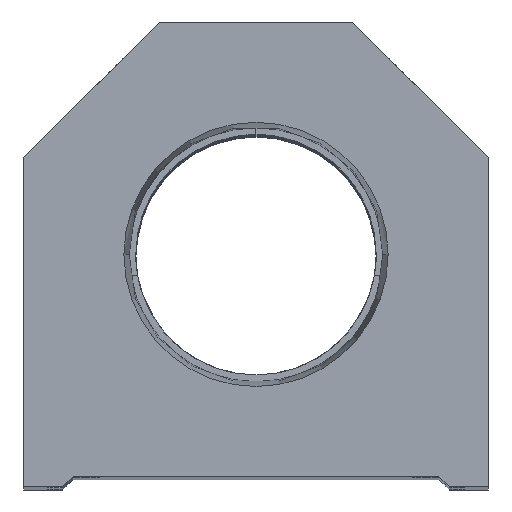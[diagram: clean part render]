
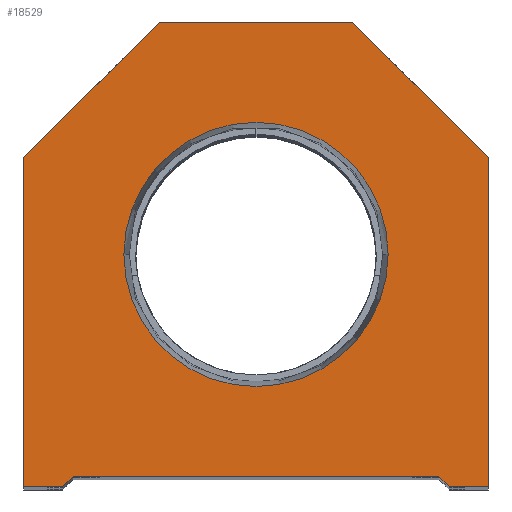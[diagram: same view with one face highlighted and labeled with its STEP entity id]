
A CAD part, top view. The second image highlights one B-rep face of the part: STEP entity #18529.
In plain terms, the highlighted planar face has unit normal (0, 0, 1).
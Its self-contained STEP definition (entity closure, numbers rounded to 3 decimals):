
#410 = DIRECTION ( 'NONE',  ( 0., -1., 0. ) ) ;
#971 = AXIS2_PLACEMENT_3D ( 'NONE', #16950, #4462, #13970 ) ;
#1244 = ORIENTED_EDGE ( 'NONE', *, *, #18315, .F. ) ;
#1262 = VECTOR ( 'NONE', #5521, 1000. ) ;
#1351 = CARTESIAN_POINT ( 'NONE',  ( -18.5, 0., 0. ) ) ;
#1637 = CARTESIAN_POINT ( 'NONE',  ( 22.25, 31.5, 0. ) ) ;
#2040 = ORIENTED_EDGE ( 'NONE', *, *, #16344, .T. ) ;
#2110 = LINE ( 'NONE', #8412, #18957 ) ;
#2195 = VERTEX_POINT ( 'NONE', #6141 ) ;
#2294 = AXIS2_PLACEMENT_3D ( 'NONE', #9554, #2569, #14305 ) ;
#2569 = DIRECTION ( 'NONE',  ( 0., 0., 1. ) ) ;
#2581 = EDGE_CURVE ( 'NONE', #14230, #14682, #9377, .T. ) ;
#2829 = DIRECTION ( 'NONE',  ( 1., 0., 0. ) ) ;
#3001 = VERTEX_POINT ( 'NONE', #5606 ) ;
#3291 = ORIENTED_EDGE ( 'NONE', *, *, #17288, .T. ) ;
#3458 = CARTESIAN_POINT ( 'NONE',  ( -17.5, 1., 0. ) ) ;
#3513 = LINE ( 'NONE', #6594, #9124 ) ;
#3969 = DIRECTION ( 'NONE',  ( 1., 0., 0. ) ) ;
#4270 = FACE_BOUND ( 'NONE', #15667, .T. ) ;
#4311 = VERTEX_POINT ( 'NONE', #12647 ) ;
#4462 = DIRECTION ( 'NONE',  ( 0., 0., 1. ) ) ;
#4679 = CARTESIAN_POINT ( 'NONE',  ( -17.5, 0., 0. ) ) ;
#4861 = ORIENTED_EDGE ( 'NONE', *, *, #11887, .T. ) ;
#5140 = VERTEX_POINT ( 'NONE', #12552 ) ;
#5507 = ORIENTED_EDGE ( 'NONE', *, *, #10117, .T. ) ;
#5521 = DIRECTION ( 'NONE',  ( -1., 0., 0. ) ) ;
#5606 = CARTESIAN_POINT ( 'NONE',  ( -12.647, 22.25, 0. ) ) ;
#5761 = VECTOR ( 'NONE', #17679, 1000. ) ;
#5803 = PLANE ( 'NONE',  #6573 ) ;
#5848 = VERTEX_POINT ( 'NONE', #3458 ) ;
#6045 = ORIENTED_EDGE ( 'NONE', *, *, #9874, .T. ) ;
#6113 = LINE ( 'NONE', #4679, #6425 ) ;
#6132 = DIRECTION ( 'NONE',  ( 0.707, -0.707, 0. ) ) ;
#6141 = CARTESIAN_POINT ( 'NONE',  ( 17.5, 1., 0. ) ) ;
#6425 = VECTOR ( 'NONE', #17490, 1000. ) ;
#6526 = CARTESIAN_POINT ( 'NONE',  ( 22.25, 31.5, 0. ) ) ;
#6573 = AXIS2_PLACEMENT_3D ( 'NONE', #18119, #12113, #3969 ) ;
#6594 = CARTESIAN_POINT ( 'NONE',  ( -22.25, 0., 0. ) ) ;
#6706 = CARTESIAN_POINT ( 'NONE',  ( 12.647, 22.25, 0. ) ) ;
#7066 = LINE ( 'NONE', #13390, #1262 ) ;
#7238 = CIRCLE ( 'NONE', #2294, 12.647 ) ;
#7262 = FACE_OUTER_BOUND ( 'NONE', #8262, .T. ) ;
#8262 = EDGE_LOOP ( 'NONE', ( #5507, #10399, #6045, #17354, #12978, #4861, #2040, #3291, #11417, #8779 ) ) ;
#8412 = CARTESIAN_POINT ( 'NONE',  ( -17.5, 1., 0. ) ) ;
#8651 = CARTESIAN_POINT ( 'NONE',  ( 22.25, 0., 0. ) ) ;
#8779 = ORIENTED_EDGE ( 'NONE', *, *, #14529, .T. ) ;
#8861 = DIRECTION ( 'NONE',  ( 0., 1., 0. ) ) ;
#9124 = VECTOR ( 'NONE', #410, 1000. ) ;
#9377 = LINE ( 'NONE', #15699, #13059 ) ;
#9554 = CARTESIAN_POINT ( 'NONE',  ( 0., 22.25, 0. ) ) ;
#9874 = EDGE_CURVE ( 'NONE', #5848, #2195, #2110, .T. ) ;
#10117 = EDGE_CURVE ( 'NONE', #14758, #19775, #6113, .T. ) ;
#10399 = ORIENTED_EDGE ( 'NONE', *, *, #16266, .T. ) ;
#10412 = CARTESIAN_POINT ( 'NONE',  ( -9.25, 9.25, 0. ) ) ;
#10566 = CARTESIAN_POINT ( 'NONE',  ( -9.25, 44.5, 0. ) ) ;
#11334 = LINE ( 'NONE', #1637, #18716 ) ;
#11417 = ORIENTED_EDGE ( 'NONE', *, *, #12607, .T. ) ;
#11525 = VERTEX_POINT ( 'NONE', #6706 ) ;
#11691 = VECTOR ( 'NONE', #8861, 1000. ) ;
#11752 = CARTESIAN_POINT ( 'NONE',  ( 22.25, 0., 0. ) ) ;
#11887 = EDGE_CURVE ( 'NONE', #14682, #14047, #15267, .T. ) ;
#12059 = LINE ( 'NONE', #13720, #12530 ) ;
#12113 = DIRECTION ( 'NONE',  ( 0., 0., 1. ) ) ;
#12530 = VECTOR ( 'NONE', #6132, 1000. ) ;
#12552 = CARTESIAN_POINT ( 'NONE',  ( 9.25, 44.5, 0. ) ) ;
#12607 = EDGE_CURVE ( 'NONE', #16009, #4311, #18814, .T. ) ;
#12647 = CARTESIAN_POINT ( 'NONE',  ( -22.25, 31.5, 0. ) ) ;
#12900 = DIRECTION ( 'NONE',  ( -0.707, 0.707, 0. ) ) ;
#12978 = ORIENTED_EDGE ( 'NONE', *, *, #2581, .T. ) ;
#13059 = VECTOR ( 'NONE', #14145, 1000. ) ;
#13390 = CARTESIAN_POINT ( 'NONE',  ( 9.25, 44.5, 0. ) ) ;
#13623 = DIRECTION ( 'NONE',  ( 0.707, 0.707, 0. ) ) ;
#13720 = CARTESIAN_POINT ( 'NONE',  ( 9.25, 9.25, 0. ) ) ;
#13850 = CARTESIAN_POINT ( 'NONE',  ( 18.5, 0., 0. ) ) ;
#13970 = DIRECTION ( 'NONE',  ( 1., 0., 0. ) ) ;
#14047 = VERTEX_POINT ( 'NONE', #6526 ) ;
#14145 = DIRECTION ( 'NONE',  ( 1., 0., 0. ) ) ;
#14230 = VERTEX_POINT ( 'NONE', #13850 ) ;
#14305 = DIRECTION ( 'NONE',  ( 1., 0., 0. ) ) ;
#14448 = VECTOR ( 'NONE', #13623, 1000. ) ;
#14508 = CIRCLE ( 'NONE', #971, 12.647 ) ;
#14529 = EDGE_CURVE ( 'NONE', #4311, #14758, #3513, .T. ) ;
#14682 = VERTEX_POINT ( 'NONE', #8651 ) ;
#14758 = VERTEX_POINT ( 'NONE', #17424 ) ;
#15178 = LINE ( 'NONE', #10412, #14448 ) ;
#15267 = LINE ( 'NONE', #11752, #11691 ) ;
#15667 = EDGE_LOOP ( 'NONE', ( #1244, #18833 ) ) ;
#15699 = CARTESIAN_POINT ( 'NONE',  ( 17.5, 0., 0. ) ) ;
#16009 = VERTEX_POINT ( 'NONE', #10566 ) ;
#16266 = EDGE_CURVE ( 'NONE', #19775, #5848, #15178, .T. ) ;
#16344 = EDGE_CURVE ( 'NONE', #14047, #5140, #11334, .T. ) ;
#16950 = CARTESIAN_POINT ( 'NONE',  ( 0., 22.25, 0. ) ) ;
#17288 = EDGE_CURVE ( 'NONE', #5140, #16009, #7066, .T. ) ;
#17354 = ORIENTED_EDGE ( 'NONE', *, *, #18294, .T. ) ;
#17424 = CARTESIAN_POINT ( 'NONE',  ( -22.25, 0., 0. ) ) ;
#17490 = DIRECTION ( 'NONE',  ( 1., 0., 0. ) ) ;
#17579 = CARTESIAN_POINT ( 'NONE',  ( -22.25, 31.5, 0. ) ) ;
#17679 = DIRECTION ( 'NONE',  ( -0.707, -0.707, 0. ) ) ;
#18119 = CARTESIAN_POINT ( 'NONE',  ( 0., 0., 0. ) ) ;
#18294 = EDGE_CURVE ( 'NONE', #2195, #14230, #12059, .T. ) ;
#18315 = EDGE_CURVE ( 'NONE', #11525, #3001, #7238, .T. ) ;
#18529 = ADVANCED_FACE ( 'NONE', ( #4270, #7262 ), #5803, .T. ) ;
#18614 = EDGE_CURVE ( 'NONE', #3001, #11525, #14508, .T. ) ;
#18716 = VECTOR ( 'NONE', #12900, 1000. ) ;
#18814 = LINE ( 'NONE', #17579, #5761 ) ;
#18833 = ORIENTED_EDGE ( 'NONE', *, *, #18614, .F. ) ;
#18957 = VECTOR ( 'NONE', #2829, 1000. ) ;
#19775 = VERTEX_POINT ( 'NONE', #1351 ) ;
